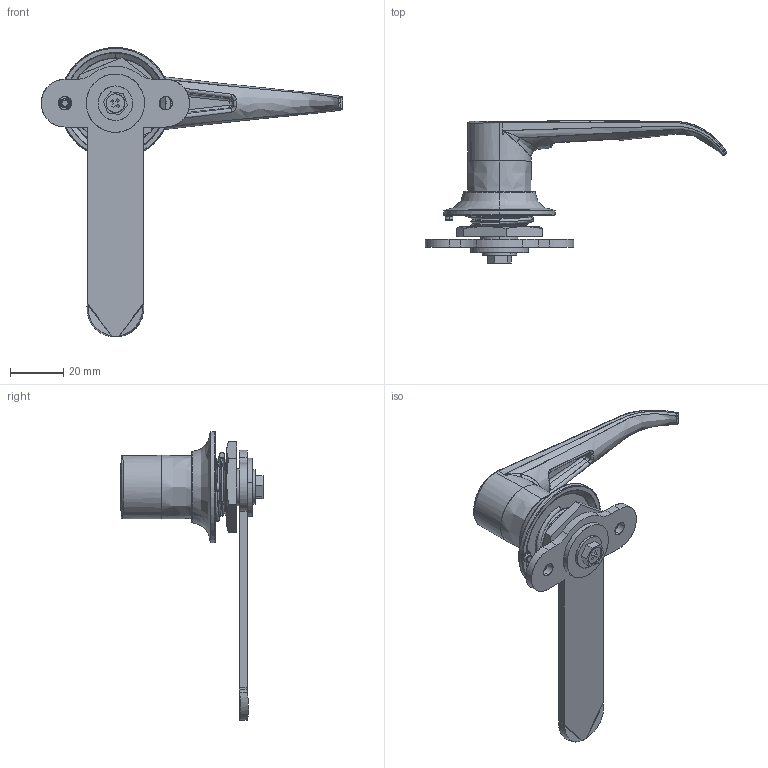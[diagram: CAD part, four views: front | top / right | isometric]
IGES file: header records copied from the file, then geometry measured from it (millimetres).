
Start section: SolidWorks IGES file using analytic representation for surfaces
Global section: file name: D:\尚坤工业图纸\SK1--门锁系列\SK1-013\SK1-013.IGS; native system: SolidWorks 2015; preprocessor: SolidWorks 2015; author: admin; date: 181101.102114; units: millimetre
Bounding box: 113.8 x 53.63 x 109 mm (x, y, z)
Surface area: 21495.5 mm2 (no closed solid volume)
Topology: 0 solids, 0 shells, 287 faces, 4021 edges, 4015 vertices
Faces by surface type: bspline 171, revolution 116
